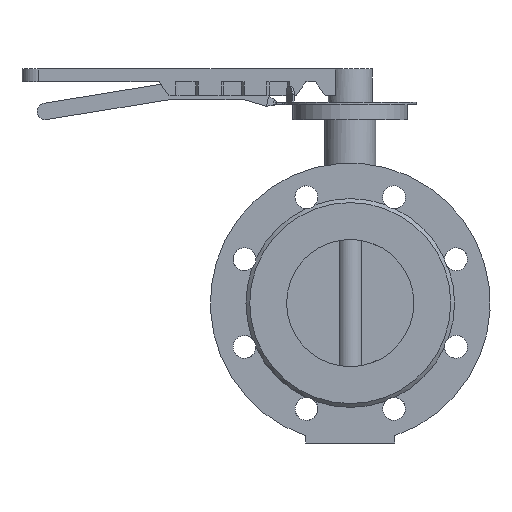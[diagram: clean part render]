
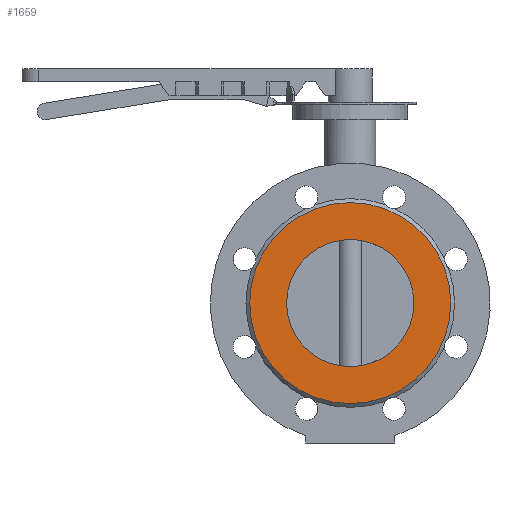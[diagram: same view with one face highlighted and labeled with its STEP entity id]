
A CAD part, front view. The second image highlights one B-rep face of the part: STEP entity #1659.
In plain terms, the highlighted planar face has unit normal (0, -1, 0).
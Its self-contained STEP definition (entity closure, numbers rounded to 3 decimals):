
#1659=ADVANCED_FACE('',(#3110,#3112),#3114,.T.);
#3110=FACE_BOUND('',#3111,.T.);
#3111=EDGE_LOOP('',(#4240));
#3112=FACE_BOUND('',#3113,.T.);
#3113=EDGE_LOOP('',(#4241));
#3114=PLANE('',#3115);
#3115=AXIS2_PLACEMENT_3D('',#3116,#3117,#3118);
#3116=CARTESIAN_POINT('',(0.,-63.5,0.));
#3117=DIRECTION('',(0.,-1.,0.));
#3118=DIRECTION('',(0.,0.,1.));
#4240=ORIENTED_EDGE('',*,*,#4790,.F.);
#4241=ORIENTED_EDGE('',*,*,#4801,.T.);
#4790=EDGE_CURVE('',#5696,#5696,#5697,.T.);
#4801=EDGE_CURVE('',#5710,#5710,#5711,.T.);
#5696=VERTEX_POINT('',#9558);
#5697=CIRCLE('',#9559,79.);
#5710=VERTEX_POINT('',#9605);
#5711=CIRCLE('',#9606,50.);
#9558=CARTESIAN_POINT('',(0.,-63.5,79.));
#9559=AXIS2_PLACEMENT_3D('',#9560,#9561,#9562);
#9560=CARTESIAN_POINT('',(0.,-63.5,0.));
#9561=DIRECTION('',(0.,1.,0.));
#9562=DIRECTION('',(0.,0.,1.));
#9605=CARTESIAN_POINT('',(0.,-63.5,50.));
#9606=AXIS2_PLACEMENT_3D('',#9607,#9608,#9609);
#9607=CARTESIAN_POINT('',(0.,-63.5,0.));
#9608=DIRECTION('',(0.,1.,0.));
#9609=DIRECTION('',(0.,0.,1.));
